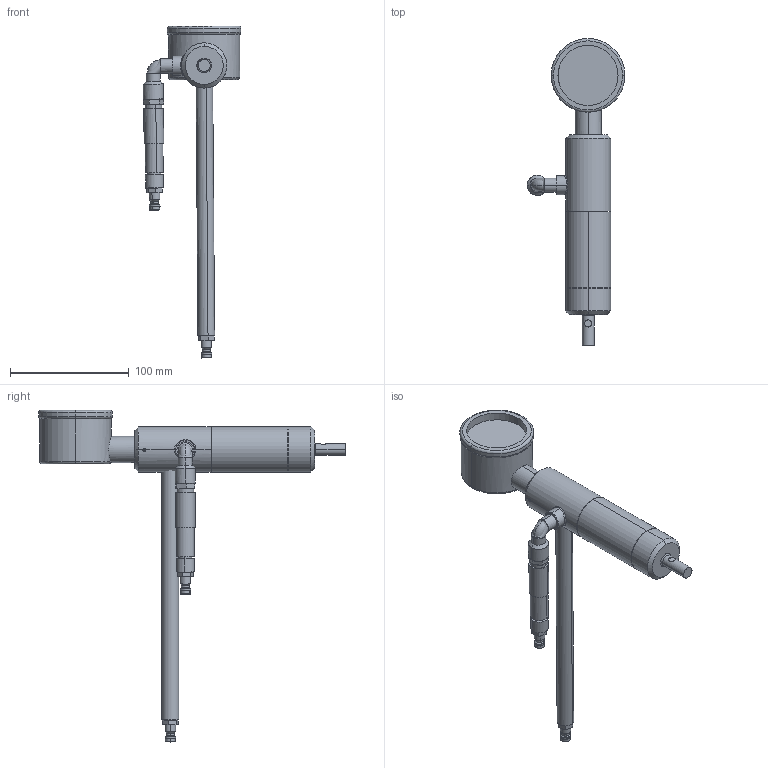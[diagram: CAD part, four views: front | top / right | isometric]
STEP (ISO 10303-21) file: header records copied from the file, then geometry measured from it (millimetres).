
FILE_DESCRIPTION (( 'STEP AP214' ), '1' );
FILE_NAME ('PLR11TGA.STEP', '2019-03-12T08:57:05', ( '' ), ( '' ), 'SwSTEP 2.0', 'SolidWorks 2018', '' );
FILE_SCHEMA (( 'AUTOMOTIVE_DESIGN' ));
Length unit declared in the file: millimetre
Products named in the file (14): Kopie von Deckel PLR 11^PLR11TGA; Kopie von Stator PLR 11^PLR11TGA; Kopie von Rotor PLR 11^PLR11TGA; Kopie von Motorblock PLR 11^PLR11TGA; PLR11TGA; Verschluss PLR 11; Halterohr GA; Rändelschraube GA; Schnellkupplung; Ventil; Rändelschraube; Winkel; Kopie von Tacho^PLR11TGA; Kopie von Distanzring PLR 11^PLR11TGA
Assembly tree (14 placements, depth 3):
  PLR11TGA
    Kopie von Motorblock PLR 11^PLR11TGA
    Kopie von Rotor PLR 11^PLR11TGA
    Kopie von Stator PLR 11^PLR11TGA
    Kopie von Deckel PLR 11^PLR11TGA
    Kopie von Distanzring PLR 11^PLR11TGA
    Kopie von Tacho^PLR11TGA
    Winkel
    Rändelschraube GA
      Rändelschraube
      Ventil
      Schnellkupplung
    Schnellkupplung
    Halterohr GA
    Verschluss PLR 11
Bounding box: 82.27 x 258 x 279.11 mm (x, y, z)
Volume: 254560 mm3; surface area: 110520.2 mm2
Topology: 13 solids, 13 shells, 289 faces, 601 edges, 378 vertices
Faces by surface type: cylinder 150, plane 93, cone 26, torus 17, bspline 3
Entity records: 8779 total; most frequent: CARTESIAN_POINT 2185, DIRECTION 1344, ORIENTED_EDGE 1058, AXIS2_PLACEMENT_3D 575, EDGE_CURVE 529, VERTEX_POINT 336, EDGE_LOOP 313, CIRCLE 302
